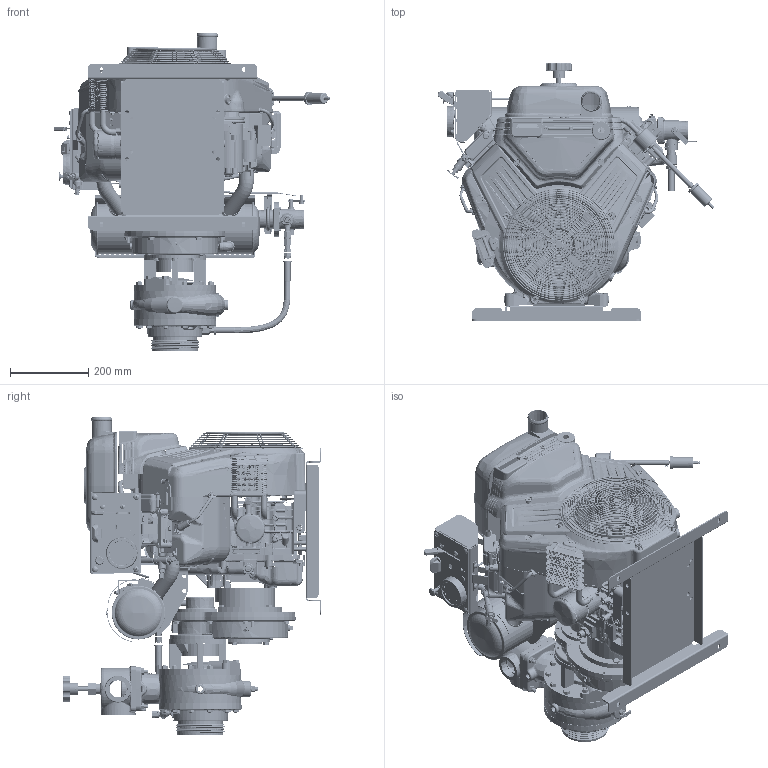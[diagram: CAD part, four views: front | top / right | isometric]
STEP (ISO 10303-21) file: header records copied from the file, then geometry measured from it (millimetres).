
FILE_DESCRIPTION (( 'STEP AP214' ), '1' );
FILE_NAME ('DHD0142.STEP', '2025-06-09T21:09:07', ( '' ), ( '' ), 'SwSTEP 2.0', 'SolidWorks 2024', '' );
FILE_SCHEMA (( 'AUTOMOTIVE_DESIGN' ));
Length unit declared in the file: inch
Products named in the file (1): DHD0142
Bounding box: 705.91 x 658.11 x 811.41 mm (x, y, z)
Surface area: 4351352 mm2 (no closed solid volume)
Topology: 0 solids, 2003 shells, 9582 faces, 44880 edges, 36162 vertices
Faces by surface type: plane 2485, cylinder 2403, bspline 2395, cone 1242, torus 931, sphere 126
Entity records: 912564 total; most frequent: CARTESIAN_POINT 639397, ORIENTED_EDGE 59058, EDGE_CURVE 44699, VERTEX_POINT 36140, DIRECTION 30963, B_SPLINE_CURVE_WITH_KNOTS 30369, AXIS2_PLACEMENT_3D 12445, EDGE_LOOP 11405
